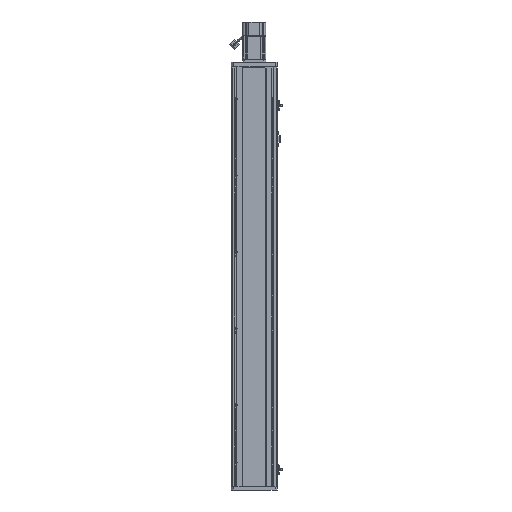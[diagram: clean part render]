
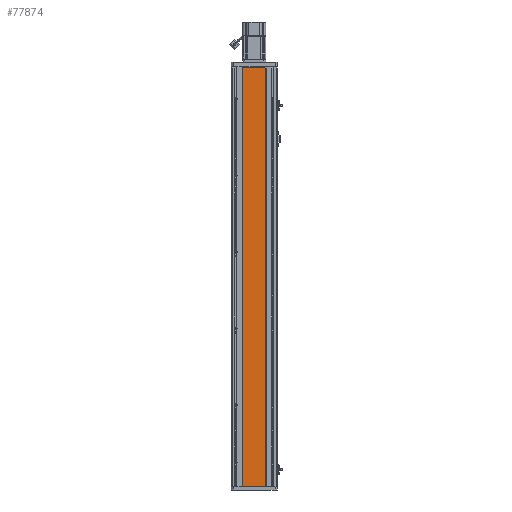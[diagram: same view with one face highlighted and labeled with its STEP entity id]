
A CAD part, front view. The second image highlights one B-rep face of the part: STEP entity #77874.
In plain terms, the highlighted planar face has unit normal (0, -1, 0).
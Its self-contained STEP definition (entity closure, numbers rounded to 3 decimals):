
#5085 = CARTESIAN_POINT ( 'NONE',  ( 30., 0., 0. ) ) ;
#5084 = DIRECTION ( 'NONE',  ( 0., 0., 1. ) ) ;
#6787 = LINE ( 'NONE', #103623, #75902 ) ;
#8663 = VECTOR ( 'NONE', #32272, 1000. ) ;
#9061 = VERTEX_POINT ( 'NONE', #13319 ) ;
#9324 = ORIENTED_EDGE ( 'NONE', *, *, #33455, .T. ) ;
#13319 = CARTESIAN_POINT ( 'NONE',  ( -30., 0., -1096.5 ) ) ;
#15111 = CARTESIAN_POINT ( 'NONE',  ( -30., 0., 0. ) ) ;
#19098 = VECTOR ( 'NONE', #5084, 1000. ) ;
#23146 = VECTOR ( 'NONE', #92865, 1000. ) ;
#29507 = CARTESIAN_POINT ( 'NONE',  ( 30., 0., -1096.5 ) ) ;
#30138 = EDGE_CURVE ( 'NONE', #66179, #100155, #80599, .T. ) ;
#31402 = DIRECTION ( 'NONE',  ( -1., 0., 0. ) ) ;
#32272 = DIRECTION ( 'NONE',  ( -1., 0., 0. ) ) ;
#33455 = EDGE_CURVE ( 'NONE', #84794, #66179, #6787, .T. ) ;
#44250 = ORIENTED_EDGE ( 'NONE', *, *, #30138, .T. ) ;
#49958 = LINE ( 'NONE', #110962, #23146 ) ;
#58282 = PLANE ( 'NONE',  #61319 ) ;
#61319 = AXIS2_PLACEMENT_3D ( 'NONE', #67327, #85359, #31402 ) ;
#66179 = VERTEX_POINT ( 'NONE', #87227 ) ;
#67327 = CARTESIAN_POINT ( 'NONE',  ( 30., 0., -1096.5 ) ) ;
#68155 = CARTESIAN_POINT ( 'NONE',  ( -30., 0., -1096.5 ) ) ;
#68539 = ORIENTED_EDGE ( 'NONE', *, *, #74463, .F. ) ;
#74463 = EDGE_CURVE ( 'NONE', #9061, #100155, #112016, .T. ) ;
#75902 = VECTOR ( 'NONE', #76526, 1000. ) ;
#76526 = DIRECTION ( 'NONE',  ( 0., 0., 1. ) ) ;
#77561 = ORIENTED_EDGE ( 'NONE', *, *, #102572, .F. ) ;
#77874 = ADVANCED_FACE ( 'NONE', ( #79001 ), #58282, .F. ) ;
#79001 = FACE_OUTER_BOUND ( 'NONE', #108410, .T. ) ;
#80599 = LINE ( 'NONE', #5085, #8663 ) ;
#84794 = VERTEX_POINT ( 'NONE', #29507 ) ;
#85359 = DIRECTION ( 'NONE',  ( 0., 1., 0. ) ) ;
#87227 = CARTESIAN_POINT ( 'NONE',  ( 30., 0., 0. ) ) ;
#92865 = DIRECTION ( 'NONE',  ( -1., 0., 0. ) ) ;
#100155 = VERTEX_POINT ( 'NONE', #15111 ) ;
#102572 = EDGE_CURVE ( 'NONE', #84794, #9061, #49958, .T. ) ;
#103623 = CARTESIAN_POINT ( 'NONE',  ( 30., 0., -1096.5 ) ) ;
#108410 = EDGE_LOOP ( 'NONE', ( #44250, #68539, #77561, #9324 ) ) ;
#110962 = CARTESIAN_POINT ( 'NONE',  ( 30., 0., -1096.5 ) ) ;
#112016 = LINE ( 'NONE', #68155, #19098 ) ;
